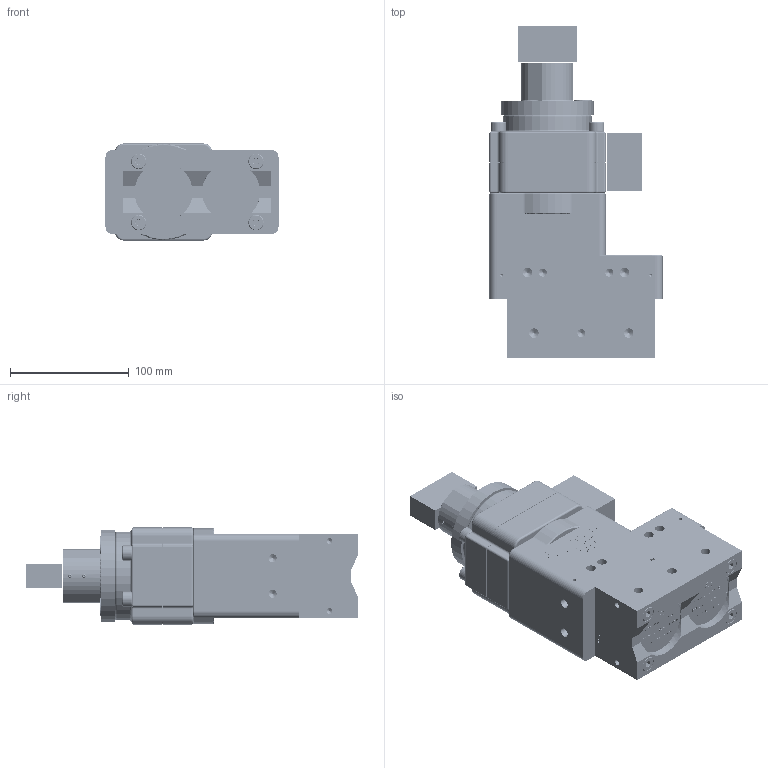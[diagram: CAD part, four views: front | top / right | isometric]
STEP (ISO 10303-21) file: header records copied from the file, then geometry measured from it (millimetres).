
FILE_DESCRIPTION (( 'STEP AP214' ), '1' );
FILE_NAME ('80001515_CFM.STEP', '2024-06-12T15:27:40', ( '' ), ( '' ), 'SwSTEP 2.0', 'SolidWorks 2022', '' );
FILE_SCHEMA (( 'AUTOMOTIVE_DESIGN' ));
Length unit declared in the file: millimetre
Products named in the file (1): 80001515_CFM
Bounding box: 146 x 280 x 82 mm (x, y, z)
Volume: 1791793.5 mm3; surface area: 227690.7 mm2
Topology: 27 solids, 47 shells, 5036 faces, 13268 edges, 8651 vertices
Faces by surface type: plane 2264, bspline 1376, cylinder 1038, cone 300, torus 50, sphere 8
Entity records: 285225 total; most frequent: CARTESIAN_POINT 123886, ORIENTED_EDGE 26356, DIRECTION 17315, EDGE_CURVE 13178, VERTEX_POINT 8651, LINE 7817, VECTOR 7817, EDGE_LOOP 5485
